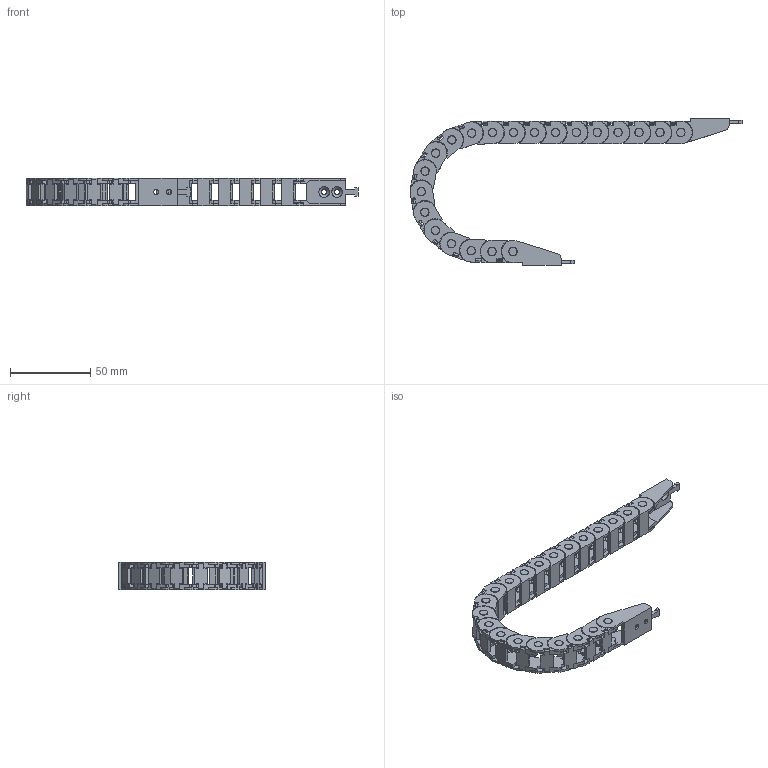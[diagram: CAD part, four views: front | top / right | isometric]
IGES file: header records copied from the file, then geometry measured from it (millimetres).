
Global section: file name: C:\Users\htj04\Desktop\0130-1BN\HSP\3D\HSP 0130-1BN 37R 20Link_1.igs; native system: NX V6.0; preprocessor: SIEMENS UGS NX 6.0; date: 20170724.154824; units: millimetre
Bounding box: 206.35 x 91 x 17.4 mm (x, y, z)
Surface area: 44383.5 mm2 (no closed solid volume)
Topology: 0 solids, 0 shells, 1738 faces, 11783 edges, 11734 vertices
Faces by surface type: bspline 1738
